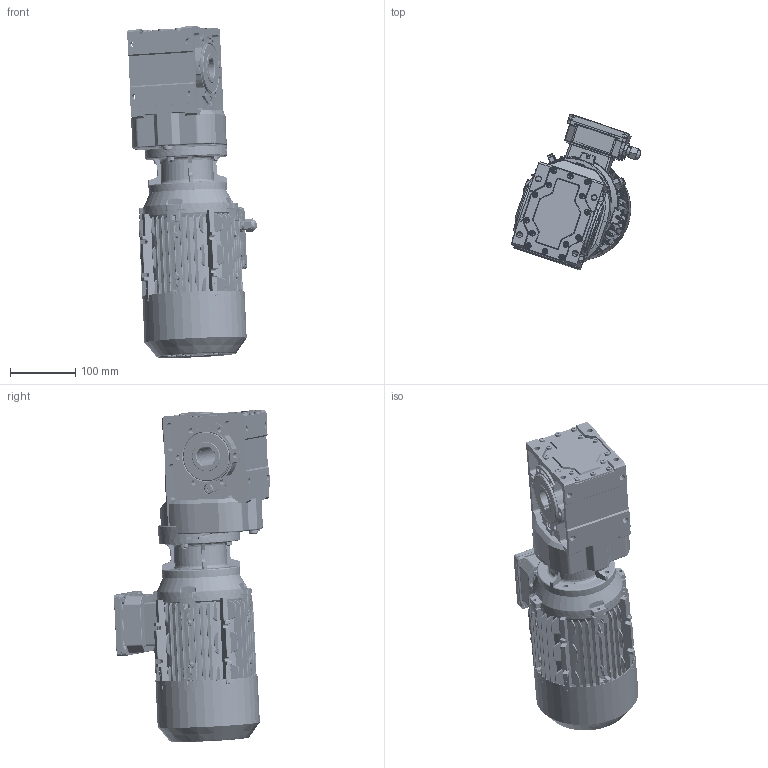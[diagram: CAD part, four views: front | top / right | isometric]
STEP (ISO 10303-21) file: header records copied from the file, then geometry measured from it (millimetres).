
FILE_DESCRIPTION (( 'STEP AP203' ), '1' );
FILE_NAME ('KV_103_0_MX3-80.STEP', '2018-11-21T12:50:32', ( '' ), ( '' ), 'SwSTEP 2.0', 'SolidWorks 2012', '' );
FILE_SCHEMA (( 'CONFIG_CONTROL_DESIGN' ));
Length unit declared in the file: millimetre
Products named in the file (15): KV_103_0_MX3-80; MX3-80_B14; IE 3 80 Plug; IE3 80 Shaft; Flansch-80_IMB14; IE3 80 Cable glands; IE3 80 terminal box cover; IE3 80 Gasket for T-box(base); IE3 80 Shield; IE3 80 Fan cover; IE3 80 Teriminal box base; IE3 80 Casing; ML115A_Varsayìlan; K103_Varsayìlan; 1380B14_Varsayìlan
Assembly tree (14 placements, depth 3):
  KV_103_0_MX3-80
    K103_Varsayìlan
    1380B14_Varsayìlan
    ML115A_Varsayìlan
    MX3-80_B14
      IE3 80 Casing
      IE3 80 Shield
      IE3 80 Fan cover
      IE3 80 Teriminal box base
      IE3 80 Gasket for T-box(base)
      IE3 80 terminal box cover
      IE3 80 Cable glands
      Flansch-80_IMB14
      IE 3 80 Plug
      IE3 80 Shaft
Bounding box: 198.27 x 238.6 x 507.32 mm (x, y, z)
Volume: 3585004.6 mm3; surface area: 849360.2 mm2
Topology: 13 solids, 13 shells, 5315 faces, 13618 edges, 8340 vertices
Faces by surface type: plane 1577, cylinder 1522, bspline 1368, cone 477, torus 261, sphere 110
Entity records: 222273 total; most frequent: CARTESIAN_POINT 103900, ORIENTED_EDGE 26870, DIRECTION 21026, EDGE_CURVE 13435, VERTEX_POINT 8324, AXIS2_PLACEMENT_3D 7827, EDGE_LOOP 5745, VECTOR 5372
